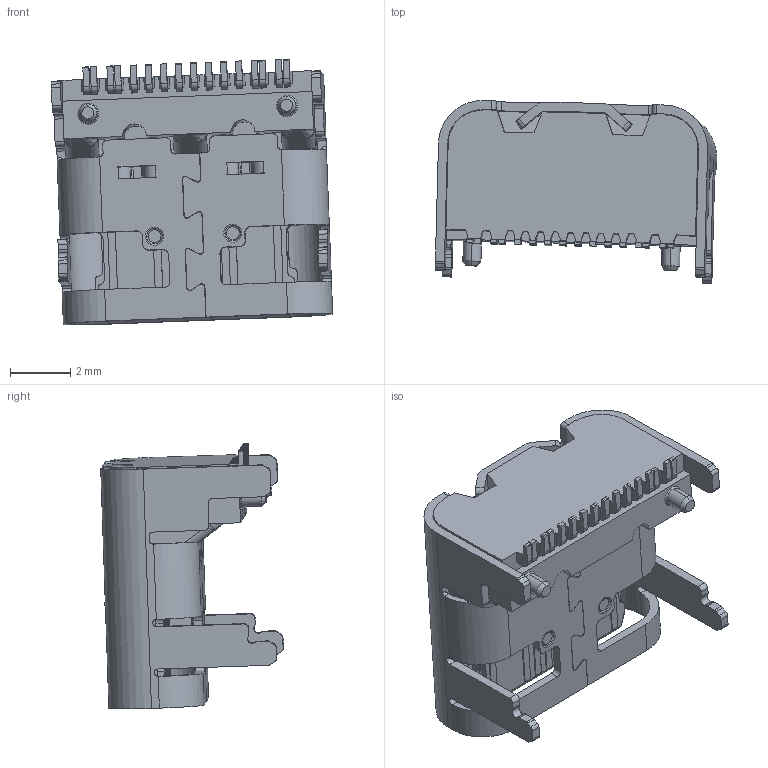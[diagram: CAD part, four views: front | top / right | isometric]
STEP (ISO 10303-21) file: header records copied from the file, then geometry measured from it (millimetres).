
FILE_DESCRIPTION((''),'2;1');
FILE_NAME('PRT0001','2023-04-24T',('WYH'),(''),'PRO/ENGINEER BY PARAMETRIC TECHNOLOGY CORPORATION, 2013040','PRO/ENGINEER BY PARAMETRIC TECHNOLOGY CORPORATION, 2013040','');
FILE_SCHEMA(('CONFIG_CONTROL_DESIGN'));
Length unit declared in the file: millimetre
Products named in the file (1): PRT0001
Bounding box: 9.34 x 6.06 x 8.82 mm (x, y, z)
Surface area: 565.2 mm2
Topology: 11 solids, 12 shells, 1098 faces, 3161 edges, 2060 vertices
Faces by surface type: plane 778, cylinder 253, bspline 28, cone 23, torus 16
Entity records: 37646 total; most frequent: CARTESIAN_POINT 8702, ORIENTED_EDGE 6304, DIRECTION 5688, EDGE_CURVE 3155, VECTOR 2468, LINE 2468, VERTEX_POINT 2060, AXIS2_PLACEMENT_3D 1610
